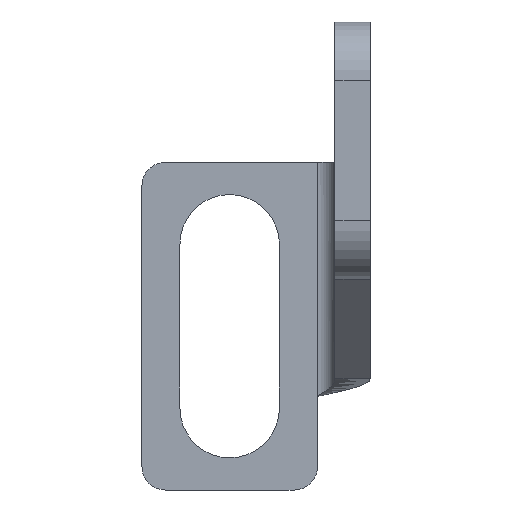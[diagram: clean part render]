
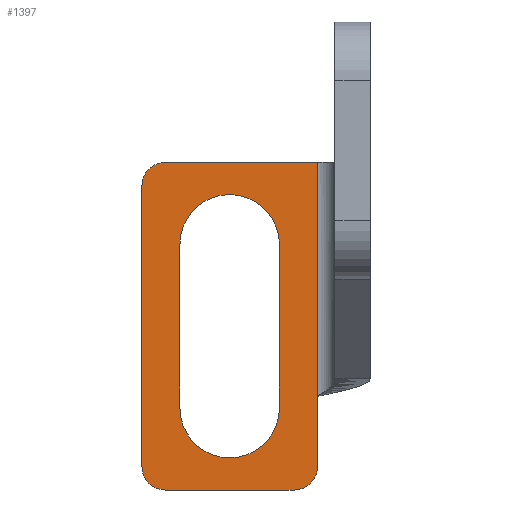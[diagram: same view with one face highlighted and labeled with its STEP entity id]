
A CAD part, left-side view. The second image highlights one B-rep face of the part: STEP entity #1397.
In plain terms, the highlighted planar face has unit normal (-1, 0, 0).
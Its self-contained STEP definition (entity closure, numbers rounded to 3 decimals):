
#4 = DIRECTION ( 'NONE',  ( 0., 0., 1. ) ) ;
#13 = DIRECTION ( 'NONE',  ( 0., 1., 0. ) ) ;
#15 = CARTESIAN_POINT ( 'NONE',  ( -19.25, 6.5, -40. ) ) ;
#22 = CARTESIAN_POINT ( 'NONE',  ( -19.25, 17.5, -40. ) ) ;
#25 = DIRECTION ( 'NONE',  ( -1., 0., 0. ) ) ;
#31 = CIRCLE ( 'NONE', #34, 2. ) ;
#33 = CARTESIAN_POINT ( 'NONE',  ( -19.25, 17.5, -38. ) ) ;
#34 = AXIS2_PLACEMENT_3D ( 'NONE', #33, #25, #13 ) ;
#36 = DIRECTION ( 'NONE',  ( 0., 1., 0. ) ) ;
#37 = VECTOR ( 'NONE', #36, 1000. ) ;
#38 = CARTESIAN_POINT ( 'NONE',  ( -19.25, 4.5, -40. ) ) ;
#39 = LINE ( 'NONE', #38, #37 ) ;
#40 = AXIS2_PLACEMENT_3D ( 'NONE', #50, #47, #46 ) ;
#43 = VECTOR ( 'NONE', #4, 1000. ) ;
#44 = CARTESIAN_POINT ( 'NONE',  ( -19.25, 16.25, -32. ) ) ;
#45 = CARTESIAN_POINT ( 'NONE',  ( -19.25, 16.25, -33. ) ) ;
#46 = DIRECTION ( 'NONE',  ( 0., 1., 0. ) ) ;
#47 = DIRECTION ( 'NONE',  ( 1., 0., 0. ) ) ;
#48 = CARTESIAN_POINT ( 'NONE',  ( -19.25, 16.25, -19. ) ) ;
#50 = CARTESIAN_POINT ( 'NONE',  ( -19.25, 12., -33. ) ) ;
#54 = CIRCLE ( 'NONE', #40, 4.25 ) ;
#55 = LINE ( 'NONE', #44, #43 ) ;
#58 = CARTESIAN_POINT ( 'NONE',  ( -19.25, 7.75, -19. ) ) ;
#61 = CARTESIAN_POINT ( 'NONE',  ( -19.25, 7.75, -33. ) ) ;
#65 = VECTOR ( 'NONE', #68, 1000. ) ;
#66 = CARTESIAN_POINT ( 'NONE',  ( -19.25, 7.75, -32. ) ) ;
#67 = LINE ( 'NONE', #66, #65 ) ;
#68 = DIRECTION ( 'NONE',  ( 0., 0., -1. ) ) ;
#595 = DIRECTION ( 'NONE',  ( 0., 0., -1. ) ) ;
#644 = LINE ( 'NONE', #678, #671 ) ;
#671 = VECTOR ( 'NONE', #672, 1000. ) ;
#672 = DIRECTION ( 'NONE',  ( 0., 0., 1. ) ) ;
#678 = CARTESIAN_POINT ( 'NONE',  ( -19.25, 4.5, -40. ) ) ;
#797 = PLANE ( 'NONE',  #840 ) ;
#804 = DIRECTION ( 'NONE',  ( 0., 1., 0. ) ) ;
#809 = FACE_OUTER_BOUND ( 'NONE', #1423, .T. ) ;
#816 = CARTESIAN_POINT ( 'NONE',  ( -19.25, 19.5, -14. ) ) ;
#819 = DIRECTION ( 'NONE',  ( 1., 0., 0. ) ) ;
#820 = CARTESIAN_POINT ( 'NONE',  ( -19.25, 3., -32. ) ) ;
#834 = FACE_BOUND ( 'NONE', #1482, .T. ) ;
#835 = AXIS2_PLACEMENT_3D ( 'NONE', #855, #854, #853 ) ;
#840 = AXIS2_PLACEMENT_3D ( 'NONE', #820, #819, #804 ) ;
#847 = CIRCLE ( 'NONE', #835, 2. ) ;
#853 = DIRECTION ( 'NONE',  ( 0., 1., 0. ) ) ;
#854 = DIRECTION ( 'NONE',  ( -1., 0., 0. ) ) ;
#855 = CARTESIAN_POINT ( 'NONE',  ( -19.25, 6.5, -38. ) ) ;
#936 = CARTESIAN_POINT ( 'NONE',  ( -19.25, 4.5, -38. ) ) ;
#943 = VECTOR ( 'NONE', #595, 1000. ) ;
#944 = CARTESIAN_POINT ( 'NONE',  ( -19.25, 19.5, -32. ) ) ;
#945 = LINE ( 'NONE', #944, #943 ) ;
#968 = DIRECTION ( 'NONE',  ( 0., 0., -1. ) ) ;
#969 = CARTESIAN_POINT ( 'NONE',  ( -19.25, 4.5, -12. ) ) ;
#971 = VECTOR ( 'NONE', #968, 1000. ) ;
#973 = LINE ( 'NONE', #969, #971 ) ;
#986 = AXIS2_PLACEMENT_3D ( 'NONE', #996, #989, #988 ) ;
#987 = AXIS2_PLACEMENT_3D ( 'NONE', #995, #992, #991 ) ;
#988 = DIRECTION ( 'NONE',  ( 0., 1., 0. ) ) ;
#989 = DIRECTION ( 'NONE',  ( 1., 0., 0. ) ) ;
#990 = CIRCLE ( 'NONE', #986, 4.25 ) ;
#991 = DIRECTION ( 'NONE',  ( 0., 1., 0. ) ) ;
#992 = DIRECTION ( 'NONE',  ( -1., 0., 0. ) ) ;
#993 = CIRCLE ( 'NONE', #987, 2. ) ;
#994 = CARTESIAN_POINT ( 'NONE',  ( -19.25, 19.5, -38. ) ) ;
#995 = CARTESIAN_POINT ( 'NONE',  ( -19.25, 17.5, -14. ) ) ;
#996 = CARTESIAN_POINT ( 'NONE',  ( -19.25, 12., -19. ) ) ;
#1015 = CARTESIAN_POINT ( 'NONE',  ( -19.25, 4.5, -32. ) ) ;
#1124 = VERTEX_POINT ( 'NONE', #1800 ) ;
#1126 = VERTEX_POINT ( 'NONE', #1792 ) ;
#1143 = EDGE_CURVE ( 'NONE', #1126, #1124, #1890, .T. ) ;
#1393 = EDGE_CURVE ( 'NONE', #1498, #1413, #847, .T. ) ;
#1395 = VERTEX_POINT ( 'NONE', #816 ) ;
#1396 = ORIENTED_EDGE ( 'NONE', *, *, #1412, .T. ) ;
#1397 = ADVANCED_FACE ( 'NONE', ( #834, #809 ), #797, .F. ) ;
#1399 = ORIENTED_EDGE ( 'NONE', *, *, #1143, .T. ) ;
#1401 = ORIENTED_EDGE ( 'NONE', *, *, #1488, .F. ) ;
#1402 = ORIENTED_EDGE ( 'NONE', *, *, #1420, .T. ) ;
#1404 = ORIENTED_EDGE ( 'NONE', *, *, #1421, .T. ) ;
#1412 = EDGE_CURVE ( 'NONE', #1413, #1445, #644, .T. ) ;
#1413 = VERTEX_POINT ( 'NONE', #936 ) ;
#1419 = EDGE_CURVE ( 'NONE', #1395, #1425, #945, .T. ) ;
#1420 = EDGE_CURVE ( 'NONE', #1124, #1395, #993, .T. ) ;
#1421 = EDGE_CURVE ( 'NONE', #1495, #1494, #990, .T. ) ;
#1422 = ORIENTED_EDGE ( 'NONE', *, *, #1432, .F. ) ;
#1423 = EDGE_LOOP ( 'NONE', ( #1401, #1424, #1396, #1422, #1399, #1402, #1474, #1476 ) ) ;
#1424 = ORIENTED_EDGE ( 'NONE', *, *, #1393, .T. ) ;
#1425 = VERTEX_POINT ( 'NONE', #994 ) ;
#1432 = EDGE_CURVE ( 'NONE', #1126, #1445, #973, .T. ) ;
#1445 = VERTEX_POINT ( 'NONE', #1015 ) ;
#1474 = ORIENTED_EDGE ( 'NONE', *, *, #1419, .T. ) ;
#1475 = EDGE_CURVE ( 'NONE', #1425, #1499, #31, .T. ) ;
#1476 = ORIENTED_EDGE ( 'NONE', *, *, #1475, .T. ) ;
#1482 = EDGE_LOOP ( 'NONE', ( #1483, #1404, #1487, #1486 ) ) ;
#1483 = ORIENTED_EDGE ( 'NONE', *, *, #1491, .T. ) ;
#1486 = ORIENTED_EDGE ( 'NONE', *, *, #1489, .T. ) ;
#1487 = ORIENTED_EDGE ( 'NONE', *, *, #1493, .T. ) ;
#1488 = EDGE_CURVE ( 'NONE', #1498, #1499, #39, .T. ) ;
#1489 = EDGE_CURVE ( 'NONE', #1490, #1496, #54, .T. ) ;
#1490 = VERTEX_POINT ( 'NONE', #61 ) ;
#1491 = EDGE_CURVE ( 'NONE', #1496, #1495, #55, .T. ) ;
#1493 = EDGE_CURVE ( 'NONE', #1494, #1490, #67, .T. ) ;
#1494 = VERTEX_POINT ( 'NONE', #58 ) ;
#1495 = VERTEX_POINT ( 'NONE', #48 ) ;
#1496 = VERTEX_POINT ( 'NONE', #45 ) ;
#1498 = VERTEX_POINT ( 'NONE', #15 ) ;
#1499 = VERTEX_POINT ( 'NONE', #22 ) ;
#1792 = CARTESIAN_POINT ( 'NONE',  ( -19.25, 4.5, -12. ) ) ;
#1800 = CARTESIAN_POINT ( 'NONE',  ( -19.25, 17.5, -12. ) ) ;
#1887 = DIRECTION ( 'NONE',  ( 0., 1., 0. ) ) ;
#1888 = VECTOR ( 'NONE', #1887, 1000. ) ;
#1889 = CARTESIAN_POINT ( 'NONE',  ( -19.25, 19.5, -12. ) ) ;
#1890 = LINE ( 'NONE', #1889, #1888 ) ;
